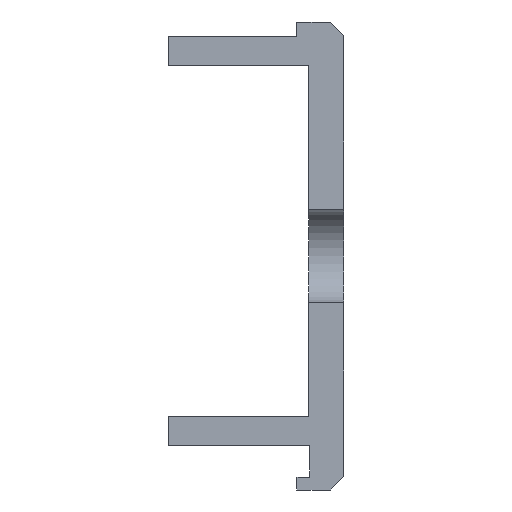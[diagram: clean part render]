
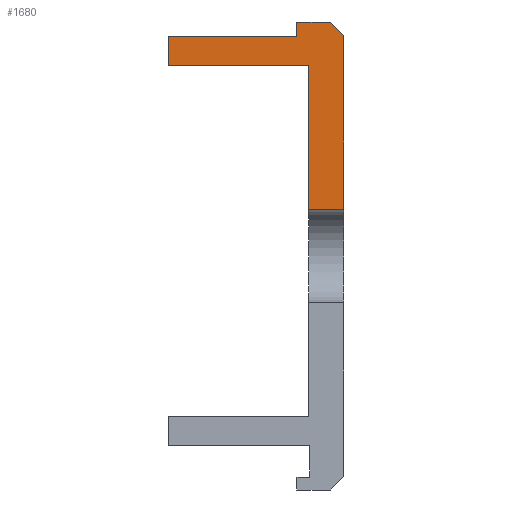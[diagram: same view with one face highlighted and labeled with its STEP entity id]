
A CAD part, left-side view. The second image highlights one B-rep face of the part: STEP entity #1680.
In plain terms, the highlighted planar face has unit normal (-1, 0, 0).
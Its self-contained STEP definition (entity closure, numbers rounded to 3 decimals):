
#82 = DIRECTION ( 'NONE',  ( 0., 0., 1. ) ) ;
#113 = LINE ( 'NONE', #2381, #1184 ) ;
#117 = DIRECTION ( 'NONE',  ( 0., 0.707, 0.707 ) ) ;
#129 = DIRECTION ( 'NONE',  ( 0., 0., 1. ) ) ;
#132 = VERTEX_POINT ( 'NONE', #1272 ) ;
#138 = LINE ( 'NONE', #1914, #1931 ) ;
#166 = DIRECTION ( 'NONE',  ( 0., 0., 1. ) ) ;
#195 = CARTESIAN_POINT ( 'NONE',  ( 25., 149., 0. ) ) ;
#261 = VERTEX_POINT ( 'NONE', #1364 ) ;
#284 = VERTEX_POINT ( 'NONE', #2483 ) ;
#303 = CARTESIAN_POINT ( 'NONE',  ( 25., 147., 1.2 ) ) ;
#309 = ORIENTED_EDGE ( 'NONE', *, *, #967, .F. ) ;
#413 = CARTESIAN_POINT ( 'NONE',  ( 25., 145., -14.8 ) ) ;
#437 = EDGE_CURVE ( 'NONE', #1005, #1245, #618, .T. ) ;
#442 = VECTOR ( 'NONE', #117, 1000. ) ;
#458 = VERTEX_POINT ( 'NONE', #1292 ) ;
#500 = DIRECTION ( 'NONE',  ( 0., 1., 0. ) ) ;
#519 = ORIENTED_EDGE ( 'NONE', *, *, #2106, .F. ) ;
#535 = ORIENTED_EDGE ( 'NONE', *, *, #1484, .T. ) ;
#566 = EDGE_LOOP ( 'NONE', ( #2125, #535, #1087, #1614, #972, #309, #1188, #2312, #519 ) ) ;
#618 = LINE ( 'NONE', #303, #1090 ) ;
#647 = VECTOR ( 'NONE', #82, 1000. ) ;
#653 = VECTOR ( 'NONE', #1382, 1000. ) ;
#687 = EDGE_CURVE ( 'NONE', #261, #284, #2146, .T. ) ;
#690 = FACE_OUTER_BOUND ( 'NONE', #566, .T. ) ;
#776 = CARTESIAN_POINT ( 'NONE',  ( 25., 148., -2.5 ) ) ;
#810 = LINE ( 'NONE', #413, #1263 ) ;
#866 = CARTESIAN_POINT ( 'NONE',  ( 25., 148., -2.5 ) ) ;
#967 = EDGE_CURVE ( 'NONE', #458, #261, #1703, .T. ) ;
#972 = ORIENTED_EDGE ( 'NONE', *, *, #687, .F. ) ;
#1005 = VERTEX_POINT ( 'NONE', #1102 ) ;
#1087 = ORIENTED_EDGE ( 'NONE', *, *, #437, .F. ) ;
#1090 = VECTOR ( 'NONE', #1865, 1000. ) ;
#1102 = CARTESIAN_POINT ( 'NONE',  ( 25., 149., 1.2 ) ) ;
#1123 = LINE ( 'NONE', #2460, #442 ) ;
#1184 = VECTOR ( 'NONE', #129, 1000. ) ;
#1188 = ORIENTED_EDGE ( 'NONE', *, *, #1794, .F. ) ;
#1245 = VERTEX_POINT ( 'NONE', #1816 ) ;
#1263 = VECTOR ( 'NONE', #1956, 1000. ) ;
#1272 = CARTESIAN_POINT ( 'NONE',  ( 25., 145., 0.03 ) ) ;
#1292 = CARTESIAN_POINT ( 'NONE',  ( 25., 160., -2.5 ) ) ;
#1319 = DIRECTION ( 'NONE',  ( 0., 1., 0. ) ) ;
#1326 = DIRECTION ( 'NONE',  ( 0., 1., 0. ) ) ;
#1338 = LINE ( 'NONE', #1352, #1398 ) ;
#1352 = CARTESIAN_POINT ( 'NONE',  ( 25., 148., -14.8 ) ) ;
#1364 = CARTESIAN_POINT ( 'NONE',  ( 25., 160., 0. ) ) ;
#1382 = DIRECTION ( 'NONE',  ( 0., -1., 0. ) ) ;
#1398 = VECTOR ( 'NONE', #1326, 1000. ) ;
#1429 = PLANE ( 'NONE',  #2462 ) ;
#1471 = CARTESIAN_POINT ( 'NONE',  ( 25., 161., -58.8 ) ) ;
#1484 = EDGE_CURVE ( 'NONE', #132, #1245, #1123, .T. ) ;
#1544 = CARTESIAN_POINT ( 'NONE',  ( 25., 160., 0. ) ) ;
#1612 = VERTEX_POINT ( 'NONE', #1833 ) ;
#1614 = ORIENTED_EDGE ( 'NONE', *, *, #2367, .F. ) ;
#1620 = EDGE_CURVE ( 'NONE', #2393, #1957, #1809, .T. ) ;
#1680 = ADVANCED_FACE ( 'NONE', ( #690 ), #1429, .F. ) ;
#1703 = LINE ( 'NONE', #1544, #2510 ) ;
#1794 = EDGE_CURVE ( 'NONE', #1957, #458, #138, .T. ) ;
#1809 = LINE ( 'NONE', #866, #647 ) ;
#1816 = CARTESIAN_POINT ( 'NONE',  ( 25., 146.17, 1.2 ) ) ;
#1833 = CARTESIAN_POINT ( 'NONE',  ( 25., 145., -14.8 ) ) ;
#1865 = DIRECTION ( 'NONE',  ( 0., -1., 0. ) ) ;
#1914 = CARTESIAN_POINT ( 'NONE',  ( 25., 160., -2.5 ) ) ;
#1931 = VECTOR ( 'NONE', #1319, 1000. ) ;
#1956 = DIRECTION ( 'NONE',  ( 0., 0., -1. ) ) ;
#1957 = VERTEX_POINT ( 'NONE', #776 ) ;
#2106 = EDGE_CURVE ( 'NONE', #1612, #2393, #1338, .T. ) ;
#2125 = ORIENTED_EDGE ( 'NONE', *, *, #2237, .F. ) ;
#2146 = LINE ( 'NONE', #195, #653 ) ;
#2235 = DIRECTION ( 'NONE',  ( 1., 0., 0. ) ) ;
#2237 = EDGE_CURVE ( 'NONE', #132, #1612, #810, .T. ) ;
#2312 = ORIENTED_EDGE ( 'NONE', *, *, #1620, .F. ) ;
#2367 = EDGE_CURVE ( 'NONE', #284, #1005, #113, .T. ) ;
#2381 = CARTESIAN_POINT ( 'NONE',  ( 25., 149., 1.2 ) ) ;
#2393 = VERTEX_POINT ( 'NONE', #2445 ) ;
#2445 = CARTESIAN_POINT ( 'NONE',  ( 25., 148., -14.8 ) ) ;
#2460 = CARTESIAN_POINT ( 'NONE',  ( 25., 145., 0.03 ) ) ;
#2462 = AXIS2_PLACEMENT_3D ( 'NONE', #1471, #2235, #500 ) ;
#2483 = CARTESIAN_POINT ( 'NONE',  ( 25., 149., 0. ) ) ;
#2510 = VECTOR ( 'NONE', #166, 1000. ) ;
